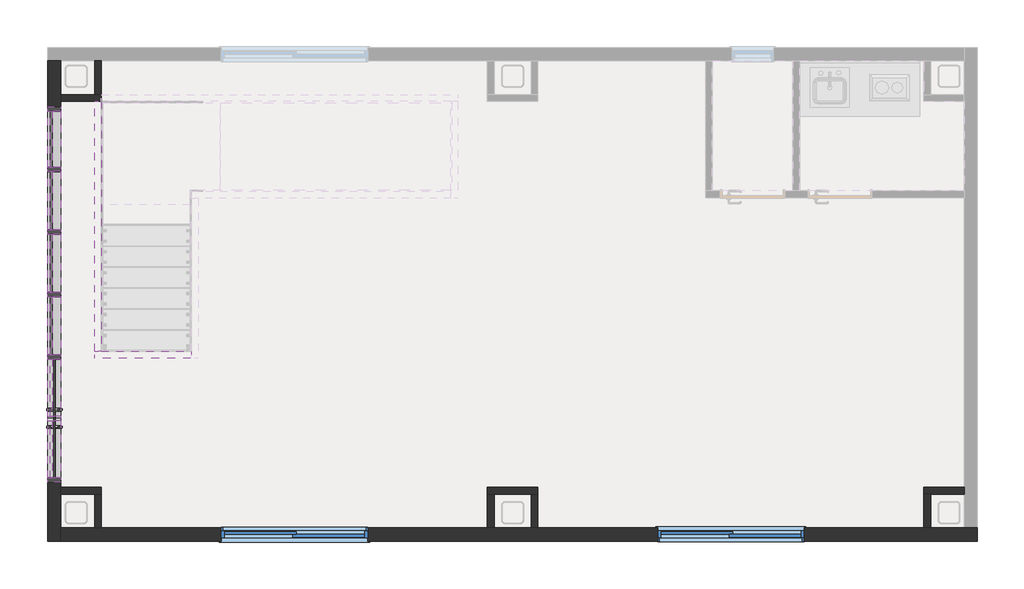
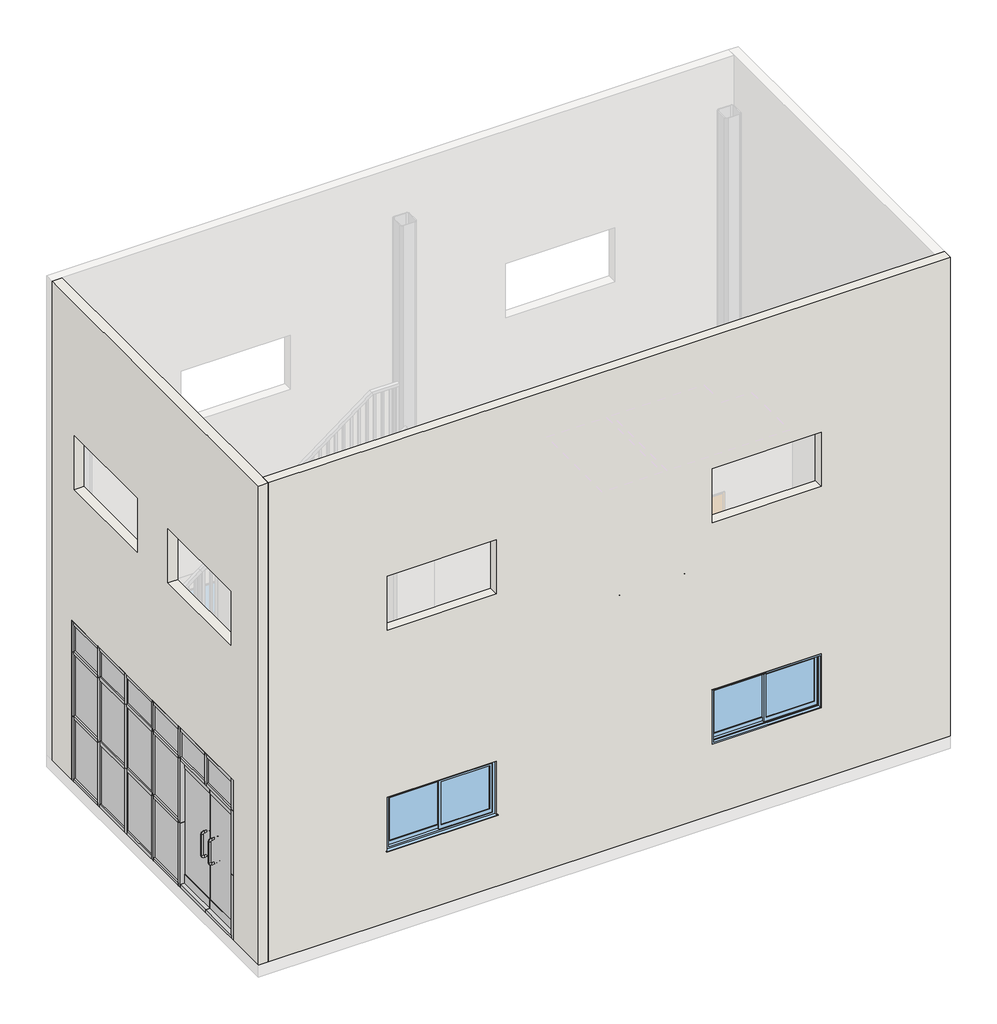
# One storey, part 1 of 3: 41 members, 15 plates, 13 walls, 2 windows.
"""IFC4 building model written with IfcOpenShell, lengths in millimetres."""

from ifc_helpers import new_model, si_unit, frame, origin, place, context, project, spatial, polyline, outline, extrude, faceted_brep, transform, mapped, element, save
from components import member_50x150mm_a0e2e66f, member_50x150mm_a9c68ae1, member_50x150mm_62bde7b1, member_50x150mm_43fc7b63, member_50x150mm_86d21357, member_50x150mm_22f77a7a, member_50x150mm_8a69f4a4, member_50x150mm_b3666dbd, member_50x150mm_1a36453b, member_50x150mm_5157afd8, member_50x150mm_37d6beb1, member_50x150mm_f4543df4, plate_bb3d00ed, plate_81b017a3, plate_3e90128c, plate_3f01d40e, plate_8868ab24, plate_6b8e4332, plate_e66cd56a, plate_cf903d6a, w1600h0800_d7cd19be

model = new_model("IFC4")

# Units and contexts
model_context = context("Model", 3, world=origin())
ifc_project = project(units=[si_unit("LENGTHUNIT", "METRE", prefix="MILLI")], contexts=[model_context])

# Site, building, storey
site = spatial("IfcSite", under=ifc_project)
building = spatial("IfcBuilding", under=site)
storey = spatial("IfcBuildingStorey", under=building, Name="1階", Elevation=200.0)

# Members
placement = place(None, origin())
member_50x150mm_shape = member_50x150mm_a0e2e66f(model_context)
element("IfcMember", 1, ObjectType="長方形マリオン : 50x150mm", at=placement, inside=storey, context=model_context, shape_type="MappedRepresentation", body=[
    mapped(member_50x150mm_shape, transform((-5297.3880564, 2186.0382733, 2800.0), x_axis=(0.0, 0.0, 1.0), y_axis=(1.0, 0.0, 0.0), z_axis=(0.0, 1.0, 0.0))),
])
member_50x150mm_2_shape = member_50x150mm_a9c68ae1(model_context)
element("IfcMember", 2, ObjectType="長方形マリオン : 50x150mm", at=placement, inside=storey, context=model_context, shape_type="MappedRepresentation", body=[
    mapped(member_50x150mm_2_shape, transform((-5297.3880564, 86.0382733, 200.0), x_axis=(0.0, 1.0, 0.0), y_axis=(1.0, 0.0, 0.0), z_axis=(0.0, 0.0, -1.0))),
])
element("IfcMember", 3, ObjectType="長方形マリオン : 50x150mm", at=placement, inside=storey, context=model_context, shape_type="MappedRepresentation", body=[
    mapped(member_50x150mm_2_shape, transform((-5297.3880564, 1519.3716066, 200.0), x_axis=(0.0, 1.0, 0.0), y_axis=(1.0, 0.0, 0.0), z_axis=(0.0, 0.0, -1.0))),
])
element("IfcMember", 4, ObjectType="長方形マリオン : 50x150mm", at=placement, inside=storey, context=model_context, shape_type="MappedRepresentation", body=[
    mapped(member_50x150mm_2_shape, transform((-5297.3880564, 802.7049399, 200.0), x_axis=(0.0, 1.0, 0.0), y_axis=(1.0, 0.0, 0.0), z_axis=(0.0, 0.0, -1.0))),
])
element("IfcMember", 5, ObjectType="長方形マリオン : 50x150mm", at=placement, inside=storey, context=model_context, shape_type="MappedRepresentation", body=[
    mapped(member_50x150mm_2_shape, transform((-5297.3880564, -630.6283934, 200.0), x_axis=(0.0, 1.0, 0.0), y_axis=(1.0, 0.0, 0.0), z_axis=(0.0, 0.0, -1.0))),
])
member_50x150mm_3_shape = member_50x150mm_62bde7b1(model_context)
element("IfcMember", 6, ObjectType="長方形マリオン : 50x150mm", at=placement, inside=storey, context=model_context, shape_type="MappedRepresentation", body=[
    mapped(member_50x150mm_3_shape, transform((-5297.3880564, 2186.0382733, 2300.0), x_axis=(0.0, 0.0, 1.0), y_axis=(1.0, 0.0, 0.0), z_axis=(0.0, 1.0, 0.0))),
])
element("IfcMember", 7, ObjectType="長方形マリオン : 50x150mm", at=placement, inside=storey, context=model_context, shape_type="MappedRepresentation", body=[
    mapped(member_50x150mm_3_shape, transform((-5297.3880564, 2186.0382733, 1250.0), x_axis=(0.0, 0.0, 1.0), y_axis=(1.0, 0.0, 0.0), z_axis=(0.0, 1.0, 0.0))),
])
member_50x150mm_4_shape = member_50x150mm_43fc7b63(model_context)
element("IfcMember", 8, ObjectType="長方形マリオン : 50x150mm", at=placement, inside=storey, context=model_context, shape_type="MappedRepresentation", body=[
    mapped(member_50x150mm_4_shape, transform((-5297.3880564, 777.7049399, 2300.0), x_axis=(0.0, 0.0, 1.0), y_axis=(1.0, 0.0, 0.0), z_axis=(0.0, 1.0, 0.0))),
])
element("IfcMember", 9, ObjectType="長方形マリオン : 50x150mm", at=placement, inside=storey, context=model_context, shape_type="MappedRepresentation", body=[
    mapped(member_50x150mm_4_shape, transform((-5297.3880564, 1494.3716066, 2300.0), x_axis=(0.0, 0.0, 1.0), y_axis=(1.0, 0.0, 0.0), z_axis=(0.0, 1.0, 0.0))),
])
element("IfcMember", 10, ObjectType="長方形マリオン : 50x150mm", at=placement, inside=storey, context=model_context, shape_type="MappedRepresentation", body=[
    mapped(member_50x150mm_4_shape, transform((-5297.3880564, 61.0382733, 2300.0), x_axis=(0.0, 0.0, 1.0), y_axis=(1.0, 0.0, 0.0), z_axis=(0.0, 1.0, 0.0))),
])
element("IfcMember", 11, ObjectType="長方形マリオン : 50x150mm", at=placement, inside=storey, context=model_context, shape_type="MappedRepresentation", body=[
    mapped(member_50x150mm_4_shape, transform((-5297.3880564, 777.7049399, 1250.0), x_axis=(0.0, 0.0, 1.0), y_axis=(1.0, 0.0, 0.0), z_axis=(0.0, 1.0, 0.0))),
])
element("IfcMember", 12, ObjectType="長方形マリオン : 50x150mm", at=placement, inside=storey, context=model_context, shape_type="MappedRepresentation", body=[
    mapped(member_50x150mm_4_shape, transform((-5297.3880564, 1494.3716066, 1250.0), x_axis=(0.0, 0.0, 1.0), y_axis=(1.0, 0.0, 0.0), z_axis=(0.0, 1.0, 0.0))),
])
element("IfcMember", 13, ObjectType="長方形マリオン : 50x150mm", at=placement, inside=storey, context=model_context, shape_type="MappedRepresentation", body=[
    mapped(member_50x150mm_4_shape, transform((-5297.3880564, 61.0382733, 1250.0), x_axis=(0.0, 0.0, 1.0), y_axis=(1.0, 0.0, 0.0), z_axis=(0.0, 1.0, 0.0))),
])
member_50x150mm_5_shape = member_50x150mm_86d21357(model_context)
element("IfcMember", 14, ObjectType="長方形マリオン : 50x150mm", at=placement, inside=storey, context=model_context, shape_type="MappedRepresentation", body=[
    mapped(member_50x150mm_5_shape, transform((-5297.3880564, 111.0382733, 200.0), x_axis=(0.0, 0.0, -1.0), y_axis=(1.0, 0.0, 0.0), z_axis=(0.0, -1.0, 0.0))),
])
element("IfcMember", 15, ObjectType="長方形マリオン : 50x150mm", at=placement, inside=storey, context=model_context, shape_type="MappedRepresentation", body=[
    mapped(member_50x150mm_5_shape, transform((-5297.3880564, 827.7049399, 200.0), x_axis=(0.0, 0.0, -1.0), y_axis=(1.0, 0.0, 0.0), z_axis=(0.0, -1.0, 0.0))),
])
element("IfcMember", 16, ObjectType="長方形マリオン : 50x150mm", at=placement, inside=storey, context=model_context, shape_type="MappedRepresentation", body=[
    mapped(member_50x150mm_5_shape, transform((-5297.3880564, -605.6283934, 200.0), x_axis=(0.0, 0.0, -1.0), y_axis=(1.0, 0.0, 0.0), z_axis=(0.0, -1.0, 0.0))),
])
element("IfcMember", 17, ObjectType="長方形マリオン : 50x150mm", at=placement, inside=storey, context=model_context, shape_type="MappedRepresentation", body=[
    mapped(member_50x150mm_shape, transform((-5297.3880564, 1544.3716066, 200.0), x_axis=(0.0, 0.0, -1.0), y_axis=(1.0, 0.0, 0.0), z_axis=(0.0, -1.0, 0.0))),
])
element("IfcMember", 18, ObjectType="長方形マリオン : 50x150mm", at=placement, inside=storey, context=model_context, shape_type="MappedRepresentation", body=[
    mapped(member_50x150mm_5_shape, transform((-5297.3880564, 61.0382733, 2800.0), x_axis=(0.0, 0.0, 1.0), y_axis=(1.0, 0.0, 0.0), z_axis=(0.0, 1.0, 0.0))),
])
element("IfcMember", 19, ObjectType="長方形マリオン : 50x150mm", at=placement, inside=storey, context=model_context, shape_type="MappedRepresentation", body=[
    mapped(member_50x150mm_5_shape, transform((-5297.3880564, 1494.3716066, 2800.0), x_axis=(0.0, 0.0, 1.0), y_axis=(1.0, 0.0, 0.0), z_axis=(0.0, 1.0, 0.0))),
])
element("IfcMember", 20, ObjectType="長方形マリオン : 50x150mm", at=placement, inside=storey, context=model_context, shape_type="MappedRepresentation", body=[
    mapped(member_50x150mm_5_shape, transform((-5297.3880564, 777.7049399, 2800.0), x_axis=(0.0, 0.0, 1.0), y_axis=(1.0, 0.0, 0.0), z_axis=(0.0, 1.0, 0.0))),
])
member_50x150mm_6_shape = member_50x150mm_22f77a7a(model_context)
element("IfcMember", 21, ObjectType="長方形マリオン : 50x150mm", at=placement, inside=storey, context=model_context, shape_type="MappedRepresentation", body=[
    mapped(member_50x150mm_6_shape, transform((-5297.3880564, 86.0382733, 2300.0), x_axis=(0.0, 1.0, 0.0), y_axis=(1.0, 0.0, 0.0), z_axis=(0.0, 0.0, -1.0))),
])
element("IfcMember", 22, ObjectType="長方形マリオン : 50x150mm", at=placement, inside=storey, context=model_context, shape_type="MappedRepresentation", body=[
    mapped(member_50x150mm_6_shape, transform((-5297.3880564, 1519.3716066, 2300.0), x_axis=(0.0, 1.0, 0.0), y_axis=(1.0, 0.0, 0.0), z_axis=(0.0, 0.0, -1.0))),
])
element("IfcMember", 23, ObjectType="長方形マリオン : 50x150mm", at=placement, inside=storey, context=model_context, shape_type="MappedRepresentation", body=[
    mapped(member_50x150mm_6_shape, transform((-5297.3880564, 802.7049399, 2300.0), x_axis=(0.0, 1.0, 0.0), y_axis=(1.0, 0.0, 0.0), z_axis=(0.0, 0.0, -1.0))),
])
element("IfcMember", 24, ObjectType="長方形マリオン : 50x150mm", at=placement, inside=storey, context=model_context, shape_type="MappedRepresentation", body=[
    mapped(member_50x150mm_6_shape, transform((-5297.3880564, -630.6283934, 2300.0), x_axis=(0.0, 1.0, 0.0), y_axis=(1.0, 0.0, 0.0), z_axis=(0.0, 0.0, -1.0))),
])
element("IfcMember", 25, ObjectType="長方形マリオン : 50x150mm", at=placement, inside=storey, context=model_context, shape_type="MappedRepresentation", body=[
    mapped(member_50x150mm_2_shape, transform((-5297.3880564, 86.0382733, 1250.0), x_axis=(0.0, 1.0, 0.0), y_axis=(1.0, 0.0, 0.0), z_axis=(0.0, 0.0, -1.0))),
])
element("IfcMember", 26, ObjectType="長方形マリオン : 50x150mm", at=placement, inside=storey, context=model_context, shape_type="MappedRepresentation", body=[
    mapped(member_50x150mm_2_shape, transform((-5297.3880564, 1519.3716066, 1250.0), x_axis=(0.0, 1.0, 0.0), y_axis=(1.0, 0.0, 0.0), z_axis=(0.0, 0.0, -1.0))),
])
element("IfcMember", 27, ObjectType="長方形マリオン : 50x150mm", at=placement, inside=storey, context=model_context, shape_type="MappedRepresentation", body=[
    mapped(member_50x150mm_2_shape, transform((-5297.3880564, 802.7049399, 1250.0), x_axis=(0.0, 1.0, 0.0), y_axis=(1.0, 0.0, 0.0), z_axis=(0.0, 0.0, -1.0))),
])
element("IfcMember", 28, ObjectType="長方形マリオン : 50x150mm", at=placement, inside=storey, context=model_context, shape_type="MappedRepresentation", body=[
    mapped(member_50x150mm_2_shape, transform((-5297.3880564, -630.6283934, 1250.0), x_axis=(0.0, 1.0, 0.0), y_axis=(1.0, 0.0, 0.0), z_axis=(0.0, 0.0, -1.0))),
])
member_50x150mm_7_shape = member_50x150mm_8a69f4a4(model_context)
element("IfcMember", 29, ObjectType="長方形マリオン : 50x150mm", at=placement, inside=storey, context=model_context, shape_type="MappedRepresentation", body=[
    mapped(member_50x150mm_7_shape, transform((-5297.3880564, -1334.7950601, 2275.0), x_axis=(0.0, 1.0, 0.0), y_axis=(1.0, 0.0, 0.0), z_axis=(0.0, 0.0, -1.0))),
])
member_50x150mm_8_shape = member_50x150mm_b3666dbd(model_context)
element("IfcMember", 30, ObjectType="長方形マリオン : 50x150mm", at=placement, inside=storey, context=model_context, shape_type="MappedRepresentation", body=[
    mapped(member_50x150mm_8_shape, transform((-5297.3880564, -2063.9617267, 2800.0), x_axis=(0.0, -1.0, 0.0), y_axis=(1.0, 0.0, 0.0), z_axis=(0.0, 0.0, 1.0))),
])
member_50x150mm_9_shape = member_50x150mm_1a36453b(model_context)
element("IfcMember", 31, ObjectType="長方形マリオン : 50x150mm", at=placement, inside=storey, context=model_context, shape_type="MappedRepresentation", body=[
    mapped(member_50x150mm_9_shape, transform((-5297.3880564, 2236.0382733, 200.0), x_axis=(0.0, 1.0, 0.0), y_axis=(1.0, 0.0, 0.0), z_axis=(0.0, 0.0, -1.0))),
])
element("IfcMember", 32, ObjectType="長方形マリオン : 50x150mm", at=placement, inside=storey, context=model_context, shape_type="MappedRepresentation", body=[
    mapped(member_50x150mm_8_shape, transform((-5297.3880564, 2236.0382733, 2300.0), x_axis=(0.0, 1.0, 0.0), y_axis=(1.0, 0.0, 0.0), z_axis=(0.0, 0.0, -1.0))),
])
element("IfcMember", 33, ObjectType="長方形マリオン : 50x150mm", at=placement, inside=storey, context=model_context, shape_type="MappedRepresentation", body=[
    mapped(member_50x150mm_9_shape, transform((-5297.3880564, 2236.0382733, 1250.0), x_axis=(0.0, 1.0, 0.0), y_axis=(1.0, 0.0, 0.0), z_axis=(0.0, 0.0, -1.0))),
])
element("IfcMember", 34, ObjectType="長方形マリオン : 50x150mm", at=placement, inside=storey, context=model_context, shape_type="MappedRepresentation", body=[
    mapped(member_50x150mm_9_shape, transform((-5297.3880564, -2063.9617267, 2300.0), x_axis=(0.0, -1.0, 0.0), y_axis=(1.0, 0.0, 0.0), z_axis=(0.0, 0.0, 1.0))),
])
element("IfcMember", 35, ObjectType="長方形マリオン : 50x150mm", at=placement, inside=storey, context=model_context, shape_type="MappedRepresentation", body=[
    mapped(member_50x150mm_9_shape, transform((-5297.3880564, -2063.9617267, 1250.0), x_axis=(0.0, -1.0, 0.0), y_axis=(1.0, 0.0, 0.0), z_axis=(0.0, 0.0, 1.0))),
])
member_50x150mm_10_shape = member_50x150mm_5157afd8(model_context)
element("IfcMember", 36, ObjectType="長方形マリオン : 50x150mm", at=placement, inside=storey, context=model_context, shape_type="MappedRepresentation", body=[
    mapped(member_50x150mm_10_shape, transform((-5297.3880564, -2013.9617267, 200.0), x_axis=(0.0, 0.0, -1.0), y_axis=(1.0, 0.0, 0.0), z_axis=(0.0, -1.0, 0.0))),
])
member_50x150mm_11_shape = member_50x150mm_37d6beb1(model_context)
element("IfcMember", 37, ObjectType="長方形マリオン : 50x150mm", at=placement, inside=storey, context=model_context, shape_type="MappedRepresentation", body=[
    mapped(member_50x150mm_11_shape, transform((-5297.3880564, -1359.7950601, 2300.0), x_axis=(0.0, 0.0, 1.0), y_axis=(1.0, 0.0, 0.0), z_axis=(0.0, 1.0, 0.0))),
])
element("IfcMember", 38, ObjectType="長方形マリオン : 50x150mm", at=placement, inside=storey, context=model_context, shape_type="MappedRepresentation", body=[
    mapped(member_50x150mm_11_shape, transform((-5297.3880564, -655.6283934, 2300.0), x_axis=(0.0, 0.0, 1.0), y_axis=(1.0, 0.0, 0.0), z_axis=(0.0, 1.0, 0.0))),
])
element("IfcMember", 39, ObjectType="長方形マリオン : 50x150mm", at=placement, inside=storey, context=model_context, shape_type="MappedRepresentation", body=[
    mapped(member_50x150mm_10_shape, transform((-5297.3880564, -1334.7950601, 200.0), x_axis=(0.0, 0.0, -1.0), y_axis=(1.0, 0.0, 0.0), z_axis=(0.0, -1.0, 0.0))),
])
member_50x150mm_12_shape = member_50x150mm_f4543df4(model_context)
element("IfcMember", 40, ObjectType="長方形マリオン : 50x150mm", at=placement, inside=storey, context=model_context, shape_type="MappedRepresentation", body=[
    mapped(member_50x150mm_12_shape, transform((-5297.3880564, -655.6283934, 2800.0), x_axis=(0.0, 0.0, 1.0), y_axis=(1.0, 0.0, 0.0), z_axis=(0.0, 1.0, 0.0))),
])
element("IfcMember", 41, ObjectType="長方形マリオン : 50x150mm", at=placement, inside=storey, context=model_context, shape_type="MappedRepresentation", body=[
    mapped(member_50x150mm_12_shape, transform((-5297.3880564, -1359.7950601, 2800.0), x_axis=(0.0, 0.0, 1.0), y_axis=(1.0, 0.0, 0.0), z_axis=(0.0, 1.0, 0.0))),
])

# Plates
plate_shape = plate_bb3d00ed(model_context)
element("IfcPlate", 42, ObjectType="システム パネル1 : ガラス", at=placement, inside=storey, context=model_context, shape_type="MappedRepresentation", body=[
    mapped(plate_shape, transform((-5297.3880564, 444.3716066, 250.0), x_axis=(0.0, 1.0, 0.0), y_axis=(-1.0, 0.0, 0.0), z_axis=(0.0, 0.0, 1.0))),
])
element("IfcPlate", 43, ObjectType="システム パネル1 : ガラス", at=placement, inside=storey, context=model_context, shape_type="MappedRepresentation", body=[
    mapped(plate_shape, transform((-5297.3880564, 1161.0382733, 250.0), x_axis=(0.0, 1.0, 0.0), y_axis=(-1.0, 0.0, 0.0), z_axis=(0.0, 0.0, 1.0))),
])
element("IfcPlate", 44, ObjectType="システム パネル1 : ガラス", at=placement, inside=storey, context=model_context, shape_type="MappedRepresentation", body=[
    mapped(plate_shape, transform((-5297.3880564, -272.2950601, 250.0), x_axis=(0.0, 1.0, 0.0), y_axis=(-1.0, 0.0, 0.0), z_axis=(0.0, 0.0, 1.0))),
])
plate_2_shape = plate_81b017a3(model_context)
element("IfcPlate", 45, ObjectType="システム パネル1 : ガラス", at=placement, inside=storey, context=model_context, shape_type="MappedRepresentation", body=[
    mapped(plate_2_shape, transform((-5297.3880564, 1865.2049399, 250.0), x_axis=(0.0, 1.0, 0.0), y_axis=(-1.0, 0.0, 0.0), z_axis=(0.0, 0.0, 1.0))),
])
plate_3_shape = plate_3e90128c(model_context)
element("IfcPlate", 46, ObjectType="システム パネル1 : ガラス", at=placement, inside=storey, context=model_context, shape_type="MappedRepresentation", body=[
    mapped(plate_3_shape, transform((-5297.3880564, 1865.2049399, 2325.0), x_axis=(0.0, 1.0, 0.0), y_axis=(-1.0, 0.0, 0.0), z_axis=(0.0, 0.0, 1.0))),
])
plate_4_shape = plate_3f01d40e(model_context)
element("IfcPlate", 47, ObjectType="システム パネル1 : ガラス", at=placement, inside=storey, context=model_context, shape_type="MappedRepresentation", body=[
    mapped(plate_4_shape, transform((-5297.3880564, -272.2950601, 2325.0), x_axis=(0.0, 1.0, 0.0), y_axis=(-1.0, 0.0, 0.0), z_axis=(0.0, 0.0, 1.0))),
])
element("IfcPlate", 48, ObjectType="システム パネル1 : ガラス", at=placement, inside=storey, context=model_context, shape_type="MappedRepresentation", body=[
    mapped(plate_4_shape, transform((-5297.3880564, 444.3716066, 2325.0), x_axis=(0.0, 1.0, 0.0), y_axis=(-1.0, 0.0, 0.0), z_axis=(0.0, 0.0, 1.0))),
])
element("IfcPlate", 49, ObjectType="システム パネル1 : ガラス", at=placement, inside=storey, context=model_context, shape_type="MappedRepresentation", body=[
    mapped(plate_4_shape, transform((-5297.3880564, 1161.0382733, 2325.0), x_axis=(0.0, 1.0, 0.0), y_axis=(-1.0, 0.0, 0.0), z_axis=(0.0, 0.0, 1.0))),
])
plate_5_shape = plate_8868ab24(model_context)
element("IfcPlate", 50, ObjectType="システム パネル1 : ガラス", at=placement, inside=storey, context=model_context, shape_type="MappedRepresentation", body=[
    mapped(plate_5_shape, transform((-5297.3880564, -272.2950601, 1275.0), x_axis=(0.0, 1.0, 0.0), y_axis=(-1.0, 0.0, 0.0), z_axis=(0.0, 0.0, 1.0))),
])
element("IfcPlate", 51, ObjectType="システム パネル1 : ガラス", at=placement, inside=storey, context=model_context, shape_type="MappedRepresentation", body=[
    mapped(plate_5_shape, transform((-5297.3880564, 444.3716066, 1275.0), x_axis=(0.0, 1.0, 0.0), y_axis=(-1.0, 0.0, 0.0), z_axis=(0.0, 0.0, 1.0))),
])
element("IfcPlate", 52, ObjectType="システム パネル1 : ガラス", at=placement, inside=storey, context=model_context, shape_type="MappedRepresentation", body=[
    mapped(plate_5_shape, transform((-5297.3880564, 1161.0382733, 1275.0), x_axis=(0.0, 1.0, 0.0), y_axis=(-1.0, 0.0, 0.0), z_axis=(0.0, 0.0, 1.0))),
])
plate_6_shape = plate_6b8e4332(model_context)
element("IfcPlate", 53, ObjectType="システム パネル1 : ガラス", at=placement, inside=storey, context=model_context, shape_type="MappedRepresentation", body=[
    mapped(plate_6_shape, transform((-5297.3880564, 1865.2049399, 1275.0), x_axis=(0.0, 1.0, 0.0), y_axis=(-1.0, 0.0, 0.0), z_axis=(0.0, 0.0, 1.0))),
])
plate_7_shape = plate_e66cd56a(model_context)
element("IfcPlate", 54, ObjectType="両開き - ヒンジ2 : ガラス パネル", at=placement, inside=storey, context=model_context, shape_type="MappedRepresentation", body=[
    mapped(plate_7_shape, transform((-5297.3880564, -1334.7950601, 250.0), x_axis=(0.0, 1.0, 0.0), y_axis=(-1.0, 0.0, 0.0), z_axis=(0.0, 0.0, 1.0))),
])
plate_8_shape = plate_cf903d6a(model_context)
element("IfcPlate", 55, ObjectType="システム パネル1 : ガラス", at=placement, inside=storey, context=model_context, shape_type="MappedRepresentation", body=[
    mapped(plate_8_shape, transform((-5297.3880564, -1686.8783934, 2325.0), x_axis=(0.0, 1.0, 0.0), y_axis=(-1.0, 0.0, 0.0), z_axis=(0.0, 0.0, 1.0))),
])
element("IfcPlate", 56, ObjectType="システム パネル1 : ガラス", at=placement, inside=storey, context=model_context, shape_type="MappedRepresentation", body=[
    mapped(plate_8_shape, transform((-5297.3880564, -982.7117267, 2325.0), x_axis=(0.0, 1.0, 0.0), y_axis=(-1.0, 0.0, 0.0), z_axis=(0.0, 0.0, 1.0))),
])

# Walls
element("IfcWall", 57, ObjectType="標準-150mm", at=placement, inside=storey, context=model_context, shape_type="Brep", body=[
    faceted_brep([(-5222.3880564, 2761.0382733, 8000.0), (-5222.3880564, -2588.9617267, 8000.0), (-5222.3880564, -2738.9617267, 8000.0), (-5222.3880564, -2738.9617267, 200.0), (-5222.3880564, -2588.9617267, 200.0), (-5222.3880564, -2203.4617267, 200.0), (-5222.3880564, -2124.4617267, 200.0), (-5222.3880564, -2063.9617267, 200.0), (-5222.3880564, -2063.9617267, 2800.0), (-5222.3880564, 2236.0382733, 2800.0), (-5222.3880564, 2236.0382733, 200.0), (-5222.3880564, 2296.5382733, 200.0), (-5222.3880564, 2375.5382733, 200.0), (-5222.3880564, 2761.0382733, 200.0), (-5222.3880564, -323.9617267, 5840.0), (-5222.3880564, -323.9617267, 4960.0), (-5222.3880564, -2003.9617267, 4960.0), (-5222.3880564, -2003.9617267, 5840.0), (-5222.3880564, 2176.0382733, 5840.0), (-5222.3880564, 2176.0382733, 4960.0), (-5222.3880564, 496.0382733, 4960.0), (-5222.3880564, 496.0382733, 5840.0), (-5372.3880564, -2738.9617267, 8000.0), (-5372.3880564, 2761.0382733, 8000.0), (-5372.3880564, 2761.0382733, 200.0), (-5372.3880564, 2236.0382733, 200.0), (-5372.3880564, 2236.0382733, 2800.0), (-5372.3880564, -2063.9617267, 2800.0), (-5372.3880564, -2063.9617267, 200.0), (-5372.3880564, -2738.9617267, 200.0), (-5372.3880564, -323.9617267, 5840.0), (-5372.3880564, -2003.9617267, 5840.0), (-5372.3880564, -2003.9617267, 4960.0), (-5372.3880564, -323.9617267, 4960.0), (-5372.3880564, 2176.0382733, 5840.0), (-5372.3880564, 496.0382733, 5840.0), (-5372.3880564, 496.0382733, 4960.0), (-5372.3880564, 2176.0382733, 4960.0)], [[[0, 1, 2, 3, 4, 5, 6, 7, 8, 9, 10, 11, 12, 13], [14, 15, 16, 17], [18, 19, 20, 21]], [[22, 23, 24, 25, 26, 27, 28, 29], [30, 31, 32, 33], [34, 35, 36, 37]], [[3, 29, 28, 7, 6, 5, 4]], [[24, 13, 12, 11, 10, 25]], [[2, 1, 0, 23, 22]], [[3, 2, 22, 29]], [[0, 13, 24, 23]], [[27, 8, 7, 28]], [[8, 27, 26, 9]], [[9, 26, 25, 10]], [[15, 14, 30, 33]], [[16, 15, 33, 32]], [[17, 16, 32, 31]], [[14, 17, 31, 30]], [[19, 18, 34, 37]], [[20, 19, 37, 36]], [[21, 20, 36, 35]], [[18, 21, 35, 34]]]),
])
element("IfcWall", 58, ObjectType="標準-150mm", at=placement, inside=storey, context=model_context, shape_type="Brep", body=[
    faceted_brep([(5277.6119436, -2588.9617267, 200.0), (5127.6119436, -2588.9617267, 200.0), (4742.1119436, -2588.9617267, 200.0), (4663.1119436, -2588.9617267, 200.0), (242.1119436, -2588.9617267, 200.0), (163.1119436, -2588.9617267, 200.0), (-257.8880564, -2588.9617267, 200.0), (-336.8880564, -2588.9617267, 200.0), (-4757.8880564, -2588.9617267, 200.0), (-4836.8880564, -2588.9617267, 200.0), (-5222.3880564, -2588.9617267, 200.0), (-5222.3880564, -2588.9617267, 8000.0), (5127.6119436, -2588.9617267, 8000.0), (5277.6119436, -2588.9617267, 8000.0), (-3387.3880564, -2588.9617267, 2240.0), (-3387.3880564, -2588.9617267, 1360.0), (-1707.3880564, -2588.9617267, 1360.0), (-1707.3880564, -2588.9617267, 2240.0), (3292.6119436, -2588.9617267, 2240.0), (1612.6119436, -2588.9617267, 2240.0), (1612.6119436, -2588.9617267, 1360.0), (3292.6119436, -2588.9617267, 1360.0), (-3387.3880564, -2588.9617267, 5840.0), (-3387.3880564, -2588.9617267, 4960.0), (-1707.3880564, -2588.9617267, 4960.0), (-1707.3880564, -2588.9617267, 5840.0), (1612.6119436, -2588.9617267, 5840.0), (1612.6119436, -2588.9617267, 4960.0), (3292.6119436, -2588.9617267, 4960.0), (3292.6119436, -2588.9617267, 5840.0), (5277.6119436, -2738.9617267, 200.0), (5277.6119436, -2738.9617267, 8000.0), (-5222.3880564, -2738.9617267, 8000.0), (-5222.3880564, -2738.9617267, 200.0), (-3387.3880564, -2738.9617267, 2240.0), (-1707.3880564, -2738.9617267, 2240.0), (-1707.3880564, -2738.9617267, 1360.0), (-3387.3880564, -2738.9617267, 1360.0), (3292.6119436, -2738.9617267, 2240.0), (3292.6119436, -2738.9617267, 1360.0), (1612.6119436, -2738.9617267, 1360.0), (1612.6119436, -2738.9617267, 2240.0), (-3387.3880564, -2738.9617267, 5840.0), (-1707.3880564, -2738.9617267, 5840.0), (-1707.3880564, -2738.9617267, 4960.0), (-3387.3880564, -2738.9617267, 4960.0), (1612.6119436, -2738.9617267, 5840.0), (3292.6119436, -2738.9617267, 5840.0), (3292.6119436, -2738.9617267, 4960.0), (1612.6119436, -2738.9617267, 4960.0)], [[[0, 1, 2, 3, 4, 5, 6, 7, 8, 9, 10, 11, 12, 13], [14, 15, 16, 17], [18, 19, 20, 21], [22, 23, 24, 25], [26, 27, 28, 29]], [[30, 31, 32, 33], [34, 35, 36, 37], [38, 39, 40, 41], [42, 43, 44, 45], [46, 47, 48, 49]], [[10, 9, 8, 7, 6, 5, 4, 3, 2, 1, 0, 30, 33]], [[13, 12, 11, 32, 31]], [[0, 13, 31, 30]], [[11, 10, 33, 32]], [[15, 14, 34, 37]], [[16, 15, 37, 36]], [[17, 16, 36, 35]], [[14, 17, 35, 34]], [[39, 38, 18, 21]], [[40, 39, 21, 20]], [[41, 40, 20, 19]], [[38, 41, 19, 18]], [[23, 22, 42, 45]], [[24, 23, 45, 44]], [[25, 24, 44, 43]], [[22, 25, 43, 42]], [[27, 26, 46, 49]], [[28, 27, 49, 48]], [[29, 28, 48, 47]], [[26, 29, 47, 46]]]),
])
element("IfcWall", 59, ObjectType="内壁-79mm 間仕切り(1時間)", at=placement, inside=storey, context=model_context, shape_type="SweptSolid", body=[
    extrude(outline(polyline([(-4836.8880564, 2375.5382733), (-4836.8880564, 2761.0382733), (-4757.8880564, 2761.0382733), (-4757.8880564, 2375.5382733), (-4836.8880564, 2375.5382733)])), frame((0.0, 0.0, 200.0), z_axis=(0.0, 0.0, 1.0), x_axis=(1.0, 0.0, 0.0)), (0.0, 0.0, 1.0), 3450.0),
])
element("IfcWall", 60, ObjectType="内壁-79mm 間仕切り(1時間)", at=placement, inside=storey, context=model_context, shape_type="Brep", body=[
    faceted_brep([(-4757.8880564, 2375.5382733, 3650.0), (-4757.8880564, 2375.5382733, 2852.0), (-4757.8880564, 2375.5382733, 200.0), (-4836.8880564, 2375.5382733, 200.0), (-5222.3880564, 2375.5382733, 200.0), (-5222.3880564, 2375.5382733, 3650.0), (-4836.8880564, 2375.5382733, 3650.0), (-4757.8880564, 2296.5382733, 200.0), (-4757.8880564, 2296.5382733, 2852.0), (-4757.8880564, 2296.5382733, 3650.0), (-4836.8880564, 2296.5382733, 3650.0), (-5222.3880564, 2296.5382733, 3650.0), (-5222.3880564, 2296.5382733, 200.0)], [[[0, 1, 2, 3, 4, 5, 6]], [[7, 8, 9, 10, 11, 12]], [[4, 3, 2, 7, 12]], [[0, 6, 5, 11, 10, 9]], [[5, 4, 12, 11]], [[0, 9, 8, 7, 2, 1]]]),
])
element("IfcWall", 61, ObjectType="内壁-79mm 間仕切り(1時間)", at=placement, inside=storey, context=model_context, shape_type="SweptSolid", body=[
    extrude(outline(polyline([(-4757.8880564, -2203.4617267), (-4757.8880564, -2588.9617267), (-4836.8880564, -2588.9617267), (-4836.8880564, -2203.4617267), (-4757.8880564, -2203.4617267)])), frame((0.0, 0.0, 200.0), z_axis=(0.0, 0.0, 1.0), x_axis=(1.0, 0.0, 0.0)), (0.0, 0.0, 1.0), 3450.0),
])
element("IfcWall", 62, ObjectType="内壁-79mm 間仕切り(1時間)", at=placement, inside=storey, context=model_context, shape_type="Brep", body=[
    faceted_brep([(-4757.8880564, -2124.4617267, 200.0), (-5222.3880564, -2124.4617267, 200.0), (-5222.3880564, -2124.4617267, 3650.0), (-4757.8880564, -2124.4617267, 3650.0), (-4757.8880564, -2203.4617267, 200.0), (-4757.8880564, -2203.4617267, 3650.0), (-4836.8880564, -2203.4617267, 3650.0), (-5222.3880564, -2203.4617267, 3650.0), (-5222.3880564, -2203.4617267, 200.0), (-4836.8880564, -2203.4617267, 200.0)], [[[0, 1, 2, 3]], [[4, 5, 6, 7, 8, 9]], [[1, 0, 4, 9, 8]], [[3, 2, 7, 6, 5]], [[0, 3, 5, 4]], [[2, 1, 8, 7]]]),
])
element("IfcWall", 63, ObjectType="内壁-79mm 間仕切り(1時間)", at=placement, inside=storey, context=model_context, shape_type="SweptSolid", body=[
    extrude(outline(polyline([(242.1119436, -2203.4617267), (242.1119436, -2588.9617267), (163.1119436, -2588.9617267), (163.1119436, -2203.4617267), (242.1119436, -2203.4617267)])), frame((0.0, 0.0, 200.0), z_axis=(0.0, 0.0, 1.0), x_axis=(1.0, 0.0, 0.0)), (0.0, 0.0, 1.0), 3450.0),
])
element("IfcWall", 64, ObjectType="内壁-79mm 間仕切り(1時間)", at=placement, inside=storey, context=model_context, shape_type="Brep", body=[
    faceted_brep([(242.1119436, -2124.4617267, 200.0), (-336.8880564, -2124.4617267, 200.0), (-336.8880564, -2124.4617267, 3650.0), (242.1119436, -2124.4617267, 3650.0), (242.1119436, -2203.4617267, 200.0), (242.1119436, -2203.4617267, 3650.0), (163.1119436, -2203.4617267, 3650.0), (-257.8880564, -2203.4617267, 3650.0), (-336.8880564, -2203.4617267, 3650.0), (-336.8880564, -2203.4617267, 200.0), (-257.8880564, -2203.4617267, 200.0), (163.1119436, -2203.4617267, 200.0)], [[[0, 1, 2, 3]], [[4, 5, 6, 7, 8, 9, 10, 11]], [[1, 0, 4, 11, 10, 9]], [[3, 2, 8, 7, 6, 5]], [[0, 3, 5, 4]], [[2, 1, 9, 8]]]),
])
element("IfcWall", 65, ObjectType="内壁-79mm 間仕切り(1時間)", at=placement, inside=storey, context=model_context, shape_type="SweptSolid", body=[
    extrude(outline(polyline([(-336.8880564, -2588.9617267), (-336.8880564, -2203.4617267), (-257.8880564, -2203.4617267), (-257.8880564, -2588.9617267), (-336.8880564, -2588.9617267)])), frame((0.0, 0.0, 200.0), z_axis=(0.0, 0.0, 1.0), x_axis=(1.0, 0.0, 0.0)), (0.0, 0.0, 1.0), 3450.0),
])
element("IfcWall", 66, ObjectType="内壁-79mm 間仕切り(1時間)", at=placement, inside=storey, context=model_context, shape_type="SweptSolid", body=[
    extrude(outline(polyline([(4742.1119436, -2203.4617267), (4742.1119436, -2588.9617267), (4663.1119436, -2588.9617267), (4663.1119436, -2203.4617267), (4742.1119436, -2203.4617267)])), frame((0.0, 0.0, 200.0), z_axis=(0.0, 0.0, 1.0), x_axis=(1.0, 0.0, 0.0)), (0.0, 0.0, 1.0), 3450.0),
])
element("IfcWall", 67, ObjectType="内壁-79mm 間仕切り(1時間)", at=placement, inside=storey, context=model_context, shape_type="Brep", body=[
    faceted_brep([(4663.1119436, -2203.4617267, 200.0), (4742.1119436, -2203.4617267, 200.0), (5127.6119436, -2203.4617267, 200.0), (5127.6119436, -2203.4617267, 3650.0), (4742.1119436, -2203.4617267, 3650.0), (4663.1119436, -2203.4617267, 3650.0), (4663.1119436, -2124.4617267, 200.0), (4663.1119436, -2124.4617267, 3650.0), (5127.6119436, -2124.4617267, 3650.0), (5127.6119436, -2124.4617267, 200.0)], [[[0, 1, 2, 3, 4, 5]], [[6, 7, 8, 9]], [[2, 1, 0, 6, 9]], [[5, 4, 3, 8, 7]], [[0, 5, 7, 6]], [[3, 2, 9, 8]]]),
])
element("IfcWall", 68, ObjectType="内壁-79mm 間仕切り(1時間)", at=placement, inside=storey, context=model_context, shape_type="Brep", body=[
    faceted_brep([(-3727.8880564, -563.9617267, 2852.0), (-4757.8880564, -563.9617267, 2852.0), (-4836.8880564, -563.9617267, 2852.0), (-4836.8880564, -563.9617267, 3650.0), (-4757.8880564, -563.9617267, 3650.0), (-3727.8880564, -563.9617267, 3650.0), (-3727.8880564, -642.9617267, 2852.0), (-3727.8880564, -642.9617267, 3650.0), (-4836.8880564, -642.9617267, 3650.0), (-4836.8880564, -642.9617267, 2852.0)], [[[0, 1, 2, 3, 4, 5]], [[6, 7, 8, 9]], [[2, 1, 0, 6, 9]], [[5, 4, 3, 8, 7]], [[0, 5, 7, 6]], [[3, 2, 9, 8]]]),
])
element("IfcWall", 69, ObjectType="内壁-79mm 間仕切り(1時間)", at=placement, inside=storey, context=model_context, shape_type="SweptSolid", body=[
    extrude(outline(polyline([(-4757.8880564, 2296.5382733), (-4757.8880564, -563.9617267), (-4836.8880564, -563.9617267), (-4836.8880564, 2296.5382733), (-4757.8880564, 2296.5382733)])), frame((0.0, 0.0, 2852.0), z_axis=(0.0, 0.0, 1.0), x_axis=(1.0, 0.0, 0.0)), (0.0, 0.0, 1.0), 798.0),
])

# Windows
w1600h0800_shape = w1600h0800_d7cd19be(model_context)
element("IfcWindow", 70, ObjectType="引違い腰窓_2枚 : w1600h0800", at=placement, inside=storey, context=model_context, shape_type="MappedRepresentation", body=[
    mapped(w1600h0800_shape, transform((-2547.3880564, -2663.9617267, 200.0), x_axis=(-1.0, 0.0, 0.0), y_axis=(0.0, -1.0, 0.0), z_axis=(0.0, 0.0, 1.0))),
])
element("IfcWindow", 71, ObjectType="引違い腰窓_2枚 : w1600h0800", at=placement, inside=storey, context=model_context, shape_type="MappedRepresentation", body=[
    mapped(w1600h0800_shape, transform((2452.6119436, -2663.9617267, 200.0), x_axis=(1.0, 0.0, 0.0), y_axis=(0.0, 1.0, 0.0), z_axis=(0.0, 0.0, 1.0))),
])

save(model, "model.ifc")
